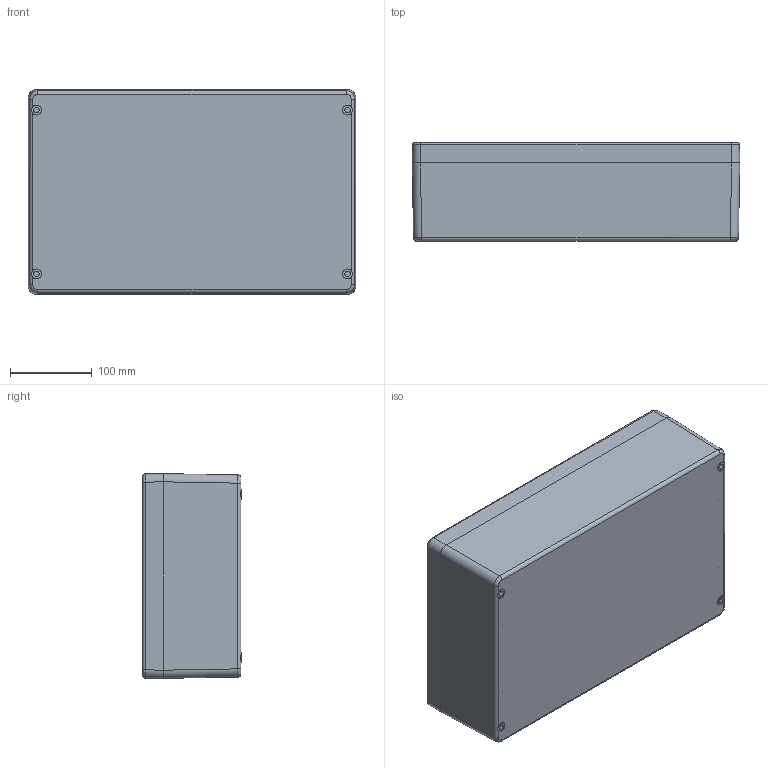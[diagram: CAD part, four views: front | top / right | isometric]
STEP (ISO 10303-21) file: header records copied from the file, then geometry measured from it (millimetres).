
FILE_DESCRIPTION (( 'STEP AP203' ), '1' );
FILE_NAME ('exe400250120.STEP', '2013-06-05T17:21:35', ( 'User' ), ( 'Pentair Inc' ), 'SwSTEP 2.0', 'SolidWorks 2010', '' );
FILE_SCHEMA (( 'CONFIG_CONTROL_DESIGN' ));
Length unit declared in the file: inch
Products named in the file (4): exe400250120; 89092791; 89092774; 89092829
Assembly tree (6 placements, depth 2):
  exe400250120
    89092791
    89092829  x4
    89092774
Bounding box: 400 x 120.5 x 250 mm (x, y, z)
Volume: 738010.8 mm3; surface area: 746637.1 mm2
Topology: 10 solids, 21 shells, 619 faces, 1576 edges, 1000 vertices
Faces by surface type: cylinder 248, plane 231, cone 96, torus 24, bspline 20
Entity records: 15947 total; most frequent: CARTESIAN_POINT 4242, DIRECTION 2465, ORIENTED_EDGE 2262, EDGE_CURVE 1151, AXIS2_PLACEMENT_3D 949, VERTEX_POINT 742, LINE 567, VECTOR 567
